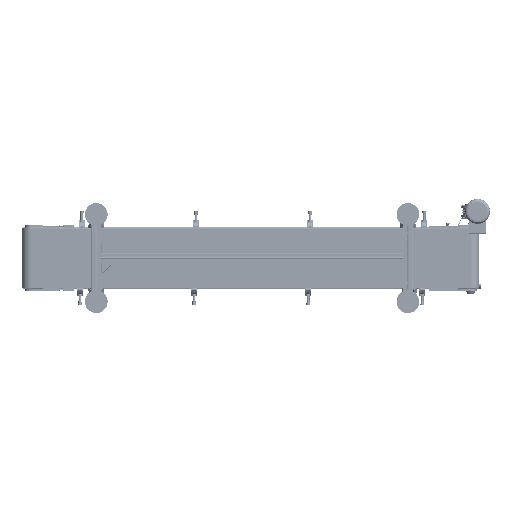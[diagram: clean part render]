
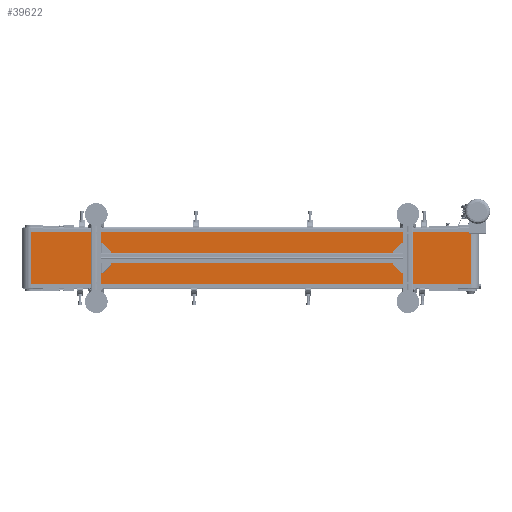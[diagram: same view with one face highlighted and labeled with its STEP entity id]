
A CAD part, front view. The second image highlights one B-rep face of the part: STEP entity #39622.
In plain terms, the highlighted planar face has unit normal (0, -1, 0).
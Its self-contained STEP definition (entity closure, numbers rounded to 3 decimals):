
#2973 = DIRECTION ( 'NONE',  ( 0., 0., 1. ) ) ;
#3279 = ORIENTED_EDGE ( 'NONE', *, *, #74243, .T. ) ;
#3964 = VECTOR ( 'NONE', #134174, 1000. ) ;
#6080 = DIRECTION ( 'NONE',  ( 0., 0., 1. ) ) ;
#6604 = EDGE_CURVE ( 'NONE', #74787, #140676, #123402, .T. ) ;
#17651 = LINE ( 'NONE', #79095, #107045 ) ;
#19230 = CARTESIAN_POINT ( 'NONE',  ( -114.3, -77.4, 0. ) ) ;
#28574 = CARTESIAN_POINT ( 'NONE',  ( 114.3, -77.4, 0. ) ) ;
#34035 = VERTEX_POINT ( 'NONE', #101228 ) ;
#34594 = LINE ( 'NONE', #19230, #83099 ) ;
#39622 = ADVANCED_FACE ( 'NONE', ( #148182 ), #117484, .T. ) ;
#43631 = ORIENTED_EDGE ( 'NONE', *, *, #6604, .F. ) ;
#45422 = DIRECTION ( 'NONE',  ( 0., 0., -1. ) ) ;
#48408 = CARTESIAN_POINT ( 'NONE',  ( 114.3, -77.4, 1935. ) ) ;
#50136 = ORIENTED_EDGE ( 'NONE', *, *, #181851, .F. ) ;
#51332 = DIRECTION ( 'NONE',  ( 1., 0., 0. ) ) ;
#52304 = AXIS2_PLACEMENT_3D ( 'NONE', #128323, #103099, #45422 ) ;
#74243 = EDGE_CURVE ( 'NONE', #103239, #34035, #88133, .T. ) ;
#74787 = VERTEX_POINT ( 'NONE', #89598 ) ;
#76362 = VECTOR ( 'NONE', #51332, 1000. ) ;
#79095 = CARTESIAN_POINT ( 'NONE',  ( 114.3, -77.4, 0. ) ) ;
#82998 = CARTESIAN_POINT ( 'NONE',  ( 114.3, -77.4, 1935. ) ) ;
#83099 = VECTOR ( 'NONE', #2973, 1000. ) ;
#86638 = EDGE_CURVE ( 'NONE', #34035, #140676, #17651, .T. ) ;
#88133 = LINE ( 'NONE', #28574, #3964 ) ;
#89598 = CARTESIAN_POINT ( 'NONE',  ( -114.3, -77.4, 1935. ) ) ;
#101228 = CARTESIAN_POINT ( 'NONE',  ( 114.3, -77.4, 0. ) ) ;
#103099 = DIRECTION ( 'NONE',  ( 0., -1., 0. ) ) ;
#103239 = VERTEX_POINT ( 'NONE', #106389 ) ;
#106389 = CARTESIAN_POINT ( 'NONE',  ( -114.3, -77.4, 0. ) ) ;
#107045 = VECTOR ( 'NONE', #6080, 1000. ) ;
#117484 = PLANE ( 'NONE',  #52304 ) ;
#121890 = EDGE_LOOP ( 'NONE', ( #162050, #43631, #50136, #3279 ) ) ;
#123402 = LINE ( 'NONE', #82998, #76362 ) ;
#128323 = CARTESIAN_POINT ( 'NONE',  ( 114.3, -77.4, 0. ) ) ;
#134174 = DIRECTION ( 'NONE',  ( 1., 0., 0. ) ) ;
#140676 = VERTEX_POINT ( 'NONE', #48408 ) ;
#148182 = FACE_OUTER_BOUND ( 'NONE', #121890, .T. ) ;
#162050 = ORIENTED_EDGE ( 'NONE', *, *, #86638, .T. ) ;
#181851 = EDGE_CURVE ( 'NONE', #103239, #74787, #34594, .T. ) ;
